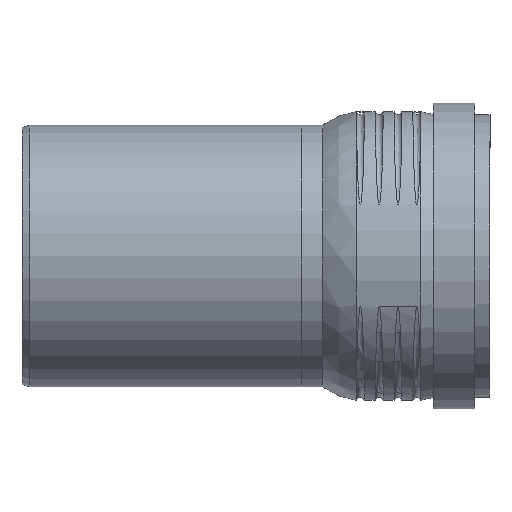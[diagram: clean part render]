
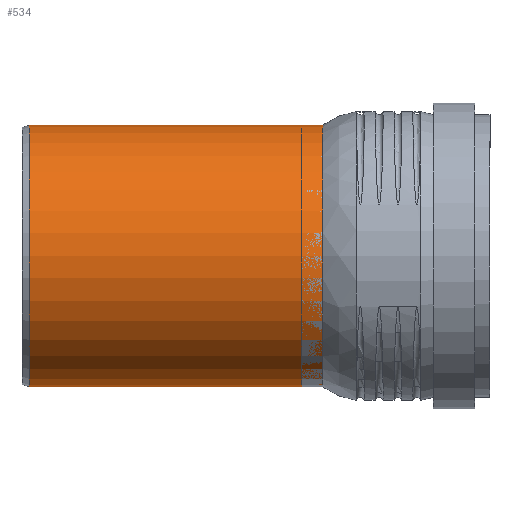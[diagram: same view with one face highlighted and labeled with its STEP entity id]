
A CAD part, top view. The second image highlights one B-rep face of the part: STEP entity #534.
In plain terms, the highlighted cylindrical face has radius 62.6 mm (diameter 125.2 mm), a full revolution.
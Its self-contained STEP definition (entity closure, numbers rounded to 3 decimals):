
#66=CYLINDRICAL_SURFACE('',#580,62.6);
#87=FACE_BOUND('',#158,.T.);
#122=FACE_OUTER_BOUND('',#157,.T.);
#157=EDGE_LOOP('',(#370));
#158=EDGE_LOOP('',(#371));
#222=CIRCLE('',#576,62.6);
#225=CIRCLE('',#581,62.6);
#249=VERTEX_POINT('',#771);
#252=VERTEX_POINT('',#779);
#304=EDGE_CURVE('',#249,#249,#222,.T.);
#307=EDGE_CURVE('',#252,#252,#225,.T.);
#370=ORIENTED_EDGE('',*,*,#307,.F.);
#371=ORIENTED_EDGE('',*,*,#304,.F.);
#534=ADVANCED_FACE('',(#122,#87),#66,.T.);
#576=AXIS2_PLACEMENT_3D('',#772,#643,#644);
#580=AXIS2_PLACEMENT_3D('',#778,#651,#652);
#581=AXIS2_PLACEMENT_3D('',#780,#653,#654);
#643=DIRECTION('center_axis',(-1.,0.,0.));
#644=DIRECTION('ref_axis',(0.,1.,0.));
#651=DIRECTION('center_axis',(1.,0.,0.));
#652=DIRECTION('ref_axis',(0.,1.,0.));
#653=DIRECTION('center_axis',(1.,0.,0.));
#654=DIRECTION('ref_axis',(0.,1.,0.));
#771=CARTESIAN_POINT('',(-68.4,-62.6,0.));
#772=CARTESIAN_POINT('Origin',(-68.4,0.,0.));
#778=CARTESIAN_POINT('Origin',(0.,0.,
0.));
#779=CARTESIAN_POINT('',(71.9,-62.6,0.));
#780=CARTESIAN_POINT('Origin',(71.9,0.,0.));
